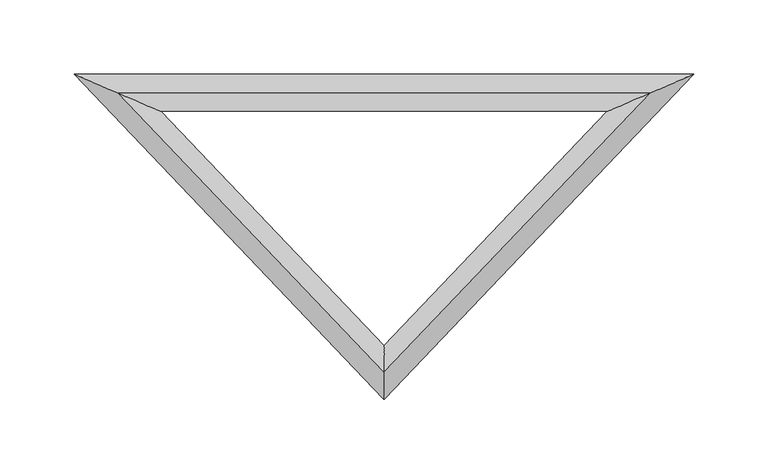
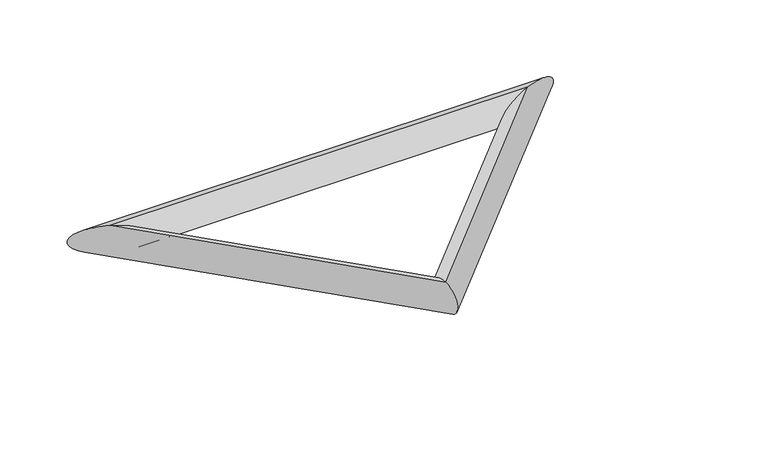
"""IFC4 building model written with IfcOpenShell, lengths in millimetres: plate geometry, ZZK PilotoBIM : ZZK PilotoBIM."""

import ifcopenshell
import ifcopenshell.guid

model = None  # the IFC model being written
_history = None  # IfcOwnerHistory: only IFC2X3 demands one
_inside = {}  # id of a spatial element -> (the spatial element, [elements in it])
_under = {}  # id of a project, library or spatial element -> (it, [spatial elements below it])
_declared = {}  # id of a project -> (the project, [libraries it declares])
_typed = {}  # id of a type object -> (the type object, [elements of that type])
_made_of = {}  # id of a material, layer set ... -> (it, [elements and type objects made of it])


def new_model(schema):
    """Start an empty IFC model of exactly this schema.

    Asked for "IFC4X3", IfcOpenShell would pick the latest addendum, in which some entities
    have other attributes; the version numbers below select the first issue.
    IFC2X3 requires an IfcOwnerHistory on every rooted entity: one is made here for all.
    """
    global model, _history
    if schema == "IFC4X3":
        model = ifcopenshell.file(schema_version=(4, 3, 0, 0))
    else:
        model = ifcopenshell.file(schema=schema)
    _inside.clear()
    _under.clear()
    _declared.clear()
    _typed.clear()
    _made_of.clear()
    _history = None
    if model.schema == "IFC2X3":
        org = make("IfcOrganization", Name="unknown")
        user = make(
            "IfcPersonAndOrganization",
            ThePerson=make("IfcPerson", FamilyName="unknown"),
            TheOrganization=org,
        )
        app = make(
            "IfcApplication",
            ApplicationDeveloper=org,
            Version="unknown",
            ApplicationFullName="unknown",
            ApplicationIdentifier="unknown",
        )
        _history = make(
            "IfcOwnerHistory",
            OwningUser=user,
            OwningApplication=app,
            ChangeAction="ADDED",
            CreationDate=0,
        )
    return model


def make(cls, **values):
    """One entity of the class cls with the attributes given. An attribute that is None is left unset."""
    return model.create_entity(
        cls, **{name: value for name, value in values.items() if value is not None}
    )


def rooted(cls, **values):
    """An entity with a GlobalId (a new one), such as an element, a storey or a relation."""
    return make(cls, GlobalId=ifcopenshell.guid.new(), OwnerHistory=_history, **values)


def si_unit(unit_type, name, prefix=None):
    """IfcSIUnit, for example si_unit("LENGTHUNIT", "METRE", prefix="MILLI")."""
    return make("IfcSIUnit", UnitType=unit_type, Prefix=prefix, Name=name)


def assignment(units):
    """IfcUnitAssignment: the units of a project."""
    return None if units is None else make("IfcUnitAssignment", Units=units)


def point(xyz):
    """IfcCartesianPoint."""
    return None if xyz is None else make("IfcCartesianPoint", Coordinates=xyz)


def direction(xyz):
    """IfcDirection."""
    return None if xyz is None else make("IfcDirection", DirectionRatios=xyz)


def frame(location, z_axis=None, x_axis=None):
    """IfcAxis2Placement3D, a coordinate frame: its origin and axes. An axis left out is left unset."""
    return make(
        "IfcAxis2Placement3D",
        Location=point(location),
        Axis=direction(z_axis),
        RefDirection=direction(x_axis),
    )


def origin():
    """The frame at (0, 0, 0) with its axes left unset."""
    return frame((0.0, 0.0, 0.0))


def place(relative_to, where):
    """IfcLocalPlacement: puts the frame where relative to a parent placement (None: the world)."""
    return make(
        "IfcLocalPlacement", PlacementRelTo=relative_to, RelativePlacement=where
    )


def context(
    kind, dimensions, precision=None, world=None, true_north=None, identifier=None
):
    """IfcGeometricRepresentationContext, for example the 3D "Model" context."""
    return make(
        "IfcGeometricRepresentationContext",
        ContextIdentifier=identifier,
        ContextType=kind,
        CoordinateSpaceDimension=dimensions,
        Precision=precision,
        WorldCoordinateSystem=world,
        TrueNorth=true_north,
    )


def project(units=None, contexts=None):
    """IfcProject with its units and contexts."""
    return rooted(
        "IfcProject",
        Name="project",
        RepresentationContexts=contexts,
        UnitsInContext=assignment(units),
    )


def spatial(cls, under=None, at=None, **own):
    """A site, building, storey or space (cls), placed at a placement, below another one or the project."""
    s = rooted(cls, ObjectPlacement=at, **own)
    if under is not None:
        _under.setdefault(under.id(), (under, []))[1].append(s)
    return s


def ellipse_curve(where, semi_axis1, semi_axis2):
    """IfcEllipse in the frame where."""
    return make(
        "IfcEllipse", Position=where, SemiAxis1=semi_axis1, SemiAxis2=semi_axis2
    )


def shape(context_of_items, identifier, shape_type, items):
    """IfcShapeRepresentation: the items that make up one representation, for example the "Body"."""
    return make(
        "IfcShapeRepresentation",
        ContextOfItems=context_of_items,
        RepresentationIdentifier=identifier,
        RepresentationType=shape_type,
        Items=items,
    )


def source(mapping_origin, context_of_items, identifier, shape_type, items):
    """IfcRepresentationMap: a shape defined once, which mapped items show again and again."""
    return make(
        "IfcRepresentationMap",
        MappingOrigin=mapping_origin,
        MappedRepresentation=shape(context_of_items, identifier, shape_type, items),
    )


def transform(
    local_origin,
    x_axis=None,
    y_axis=None,
    z_axis=None,
    scale=None,
    scale2=None,
    scale3=None,
    uniform=True,
):
    """IfcCartesianTransformationOperator3D, or its non-uniform kind. x_axis, y_axis, z_axis: its Axis1, 2, 3."""
    if uniform:
        return make(
            "IfcCartesianTransformationOperator3D",
            Axis1=direction(x_axis),
            Axis2=direction(y_axis),
            LocalOrigin=point(local_origin),
            Scale=scale,
            Axis3=direction(z_axis),
        )
    return make(
        "IfcCartesianTransformationOperator3DnonUniform",
        Axis1=direction(x_axis),
        Axis2=direction(y_axis),
        LocalOrigin=point(local_origin),
        Scale=scale,
        Axis3=direction(z_axis),
        Scale2=scale2,
        Scale3=scale3,
    )


def mapped(mapping_source, mapping_target):
    """IfcMappedItem: shows the shape of a source again, moved by a transform."""
    return make(
        "IfcMappedItem", MappingSource=mapping_source, MappingTarget=mapping_target
    )


def made_of(thing, what):
    """Note that an element or type object is made of a material, layer set ...; save() writes the relation."""
    if what is not None:
        _made_of.setdefault(what.id(), (what, []))[1].append(thing)
    return thing


def element(
    cls,
    number,
    at=None,
    inside=None,
    cuts=None,
    type_object=None,
    material=None,
    context=None,
    identifier="Body",
    shape_type=None,
    held_by="IfcProductDefinitionShape",
    body=None,
    shapes=None,
    **own,
):
    """One element of the class cls, such as IfcWall. Its Tag is "e" and its number.

    at: its placement. inside: the storey or other place that contains it. cuts: it is an
    opening in that element (IfcRelVoidsElement). A single representation is given by context,
    identifier, shape_type and body (its items); several are given by shapes. held_by: the class
    of the entity that holds the representations. save() writes the other relations.
    """
    e = rooted(cls, Tag="e%d" % number, ObjectPlacement=at, **own)
    if body is not None:
        shapes = [shape(context, identifier, shape_type, body)]
    if shapes is not None:
        e.Representation = make(held_by, Representations=shapes)
    if inside is not None:
        _inside.setdefault(inside.id(), (inside, []))[1].append(e)
    if cuts is not None:
        rooted(
            "IfcRelVoidsElement", RelatingBuildingElement=cuts, RelatedOpeningElement=e
        )
    if type_object is not None:
        _typed.setdefault(type_object.id(), (type_object, []))[1].append(e)
    return made_of(e, material)


def aggregate(whole, parts):
    """IfcRelAggregates: a whole, such as a stair, and the parts it consists of."""
    return rooted("IfcRelAggregates", RelatingObject=whole, RelatedObjects=parts)


def save(model, path):
    """Write the relations noted so far, then the file.

    IfcRelAggregates (storeys below a building ...), IfcRelContainedInSpatialStructure (elements
    in a storey), IfcRelDefinesByType, IfcRelAssociatesMaterial and IfcRelDeclares: one each for
    every whole, place, type object, material and project.
    """
    for whole, parts in _under.values():
        aggregate(whole, parts)
    for where, things in _inside.values():
        rooted(
            "IfcRelContainedInSpatialStructure",
            RelatedElements=things,
            RelatingStructure=where,
        )
    for kind, things in _typed.values():
        rooted("IfcRelDefinesByType", RelatedObjects=things, RelatingType=kind)
    for what, things in _made_of.values():
        rooted("IfcRelAssociatesMaterial", RelatedObjects=things, RelatingMaterial=what)
    for by, libraries in _declared.values():
        rooted("IfcRelDeclares", RelatingContext=by, RelatedDefinitions=libraries)
    model.write(path)


def cylinder_surface(at, radius):
    """IfcCylindricalSurface: all points at the distance radius from the z axis of the frame at."""
    return make("IfcCylindricalSurface", Position=at, Radius=radius)


def advanced_brep(points, edges, surfaces, faces):
    """IfcAdvancedBrep: a solid bounded by faces that lie on surfaces and meet in shared edges.

    An edge is (start, end): straight between two places in points (the first is 0);
    or (start, end, curve); or (start, end, curve, False) where it runs against its curve.
    A face is (place in surfaces, loops), or (place, loops, False) where it looks against
    its surface's normal. A loop lists edges by number (the first is 1), with a minus sign
    where the edge is run from its end to its start. The first loop is the outer one.
    """
    corners = [point(p) for p in points]
    vertices = [make("IfcVertexPoint", VertexGeometry=c) for c in corners]
    made = []
    for start, end, *more in edges:
        made.append(
            make(
                "IfcEdgeCurve",
                EdgeStart=vertices[start],
                EdgeEnd=vertices[end],
                EdgeGeometry=more[0] if more else make("IfcPolyline", Points=[corners[start], corners[end]]),
                SameSense=more[1] if len(more) > 1 else True,
            )
        )
    hull = []
    for where, loops, *sense in faces:
        bounds = []
        for j, loop in enumerate(loops):
            ring = [make("IfcOrientedEdge", EdgeElement=made[abs(k) - 1], Orientation=k > 0) for k in loop]
            bounds.append(
                make(
                    "IfcFaceOuterBound" if j == 0 else "IfcFaceBound",
                    Bound=make("IfcEdgeLoop", EdgeList=ring),
                    Orientation=True,
                )
            )
        hull.append(make("IfcAdvancedFace", Bounds=bounds, FaceSurface=surfaces[where], SameSense=sense[0] if sense else True))
    return make("IfcAdvancedBrep", Outer=make("IfcClosedShell", CfsFaces=hull))


def plate_f58931bc(model_context):
    return source(origin(), model_context, "Body", "AdvancedBrep", [
        advanced_brep(
        [(6275.3780853, 5142.8148887, 12.5), (6275.3780853, 5142.8148887, -12.5), (5916.6219147, 5142.8148887, -12.5), (5916.6219147, 5142.8148887, 12.5), (6096.0, 4954.3702227, -12.5), (6096.0, 4954.3702227, 12.5)],
        [
            (0, 1, ellipse_curve(frame((6275.3780853, 5142.8148887, 0.0), z_axis=(-0.39403828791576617, 0.9190940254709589, 0.0), x_axis=(0.919094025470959, 0.3940382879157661, 0.0)), 31.7228056, 12.5)),
            (1, 2),
            (2, 3, ellipse_curve(frame((5916.6219147, 5142.8148887, 0.0), z_axis=(0.39403828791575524, 0.9190940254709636, 0.0), x_axis=(0.9190940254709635, -0.39403828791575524, 0.0)), 31.7228056, 12.5)),
            (3, 0),
            (1, 0, ellipse_curve(frame((6275.3780853, 5142.8148887, 0.0), z_axis=(-0.39403828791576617, 0.9190940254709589, 0.0), x_axis=(0.919094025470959, 0.3940382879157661, 0.0)), 31.7228056, 12.5)),
            (3, 2, ellipse_curve(frame((5916.6219147, 5142.8148887, 0.0), z_axis=(0.39403828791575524, 0.9190940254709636, 0.0), x_axis=(0.9190940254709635, -0.39403828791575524, 0.0)), 31.7228056, 12.5)),
            (2, 4),
            (4, 5, ellipse_curve(frame((6096.0, 4954.3702227, 0.0), z_axis=(-0.9999999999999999, 0.0, 0.0), x_axis=(0.0, 1.0, 0.0)), 18.1299295, 12.5)),
            (5, 3),
            (5, 4, ellipse_curve(frame((6096.0, 4954.3702227, 0.0), z_axis=(-0.9999999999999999, 0.0, 0.0), x_axis=(0.0, 1.0, 0.0)), 18.1299295, 12.5)),
            (4, 1),
            (0, 5),
        ],
        [
            cylinder_surface(frame((6275.3780853, 5142.8148887, 0.0), z_axis=(1.0, 0.0, 0.0), x_axis=(0.0, 1.0, 0.0)), 12.5),
            cylinder_surface(frame((5916.6219147, 5142.8148887, 0.0), z_axis=(-0.6894676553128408, 0.724316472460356, 0.0), x_axis=(-0.724316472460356, -0.6894676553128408, 0.0)), 12.5),
            cylinder_surface(frame((6096.0, 4954.3702227, 0.0), z_axis=(-0.6894676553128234, -0.7243164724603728, 0.0), x_axis=(0.7243164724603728, -0.6894676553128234, 0.0)), 12.5),
        ],
        [
            (0, [[1, 2, 3, 4]]),
            (0, [[5, -4, 6, -2]]),
            (1, [[-3, 7, 8, 9]]),
            (1, [[-6, -9, 10, -7]]),
            (2, [[-8, 11, -1, 12]]),
            (2, [[-10, -12, -5, -11]]),
        ],
    ),
    ])


if __name__ == "__main__":
    model = new_model("IFC4")
    model_context = context("Model", 3, world=origin())
    ifc_project = project(units=[si_unit("LENGTHUNIT", "METRE", prefix="MILLI")], contexts=[model_context])
    site = spatial("IfcSite", under=ifc_project)
    building = spatial("IfcBuilding", under=site)
    placement = place(None, origin())
    plate_shape = plate_f58931bc(model_context)
    element("IfcPlate", 1, ObjectType="ZZK PilotoBIM : ZZK PilotoBIM", at=placement, inside=building, context=model_context, shape_type="MappedRepresentation", body=[
        mapped(plate_shape, transform((0.0, 0.0, 0.0), x_axis=(1.0, 0.0, 0.0), y_axis=(0.0, 1.0, 0.0), z_axis=(0.0, 0.0, 1.0))),
    ])
    save(model, "model.ifc")
